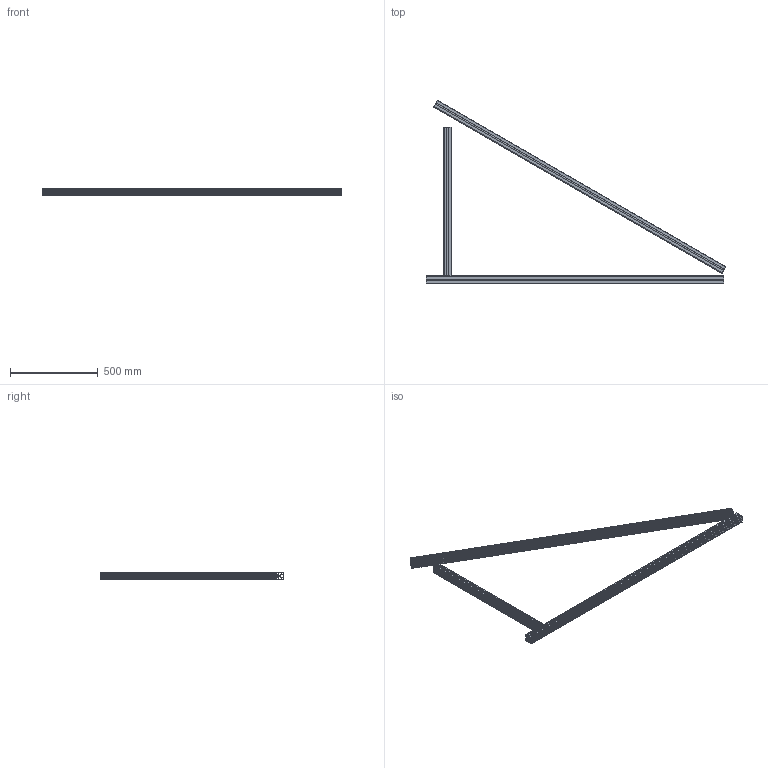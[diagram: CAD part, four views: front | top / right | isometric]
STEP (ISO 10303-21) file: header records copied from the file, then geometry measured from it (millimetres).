
FILE_DESCRIPTION (( 'STEP AP203' ), '1' );
FILE_NAME ('084.106.410.STEP', '2013-01-24T09:07:14', ( 'Alusic' ), ( 'Alusic' ), 'SwSTEP 2.0', 'SolidWorks 2011', '' );
FILE_SCHEMA (( 'CONFIG_CONTROL_DESIGN' ));
Length unit declared in the file: millimetre
Products named in the file (1): 084.106.410
Bounding box: 1712.5 x 1049 x 45 mm (x, y, z)
Volume: 2497407.6 mm3; surface area: 2511428.6 mm2
Topology: 3 solids, 3 shells, 455 faces, 1338 edges, 888 vertices
Faces by surface type: plane 241, cylinder 214
Entity records: 15370 total; most frequent: CARTESIAN_POINT 2809, ORIENTED_EDGE 2676, DIRECTION 2616, EDGE_CURVE 1338, LINE 914, VECTOR 914, VERTEX_POINT 888, AXIS2_PLACEMENT_3D 851
